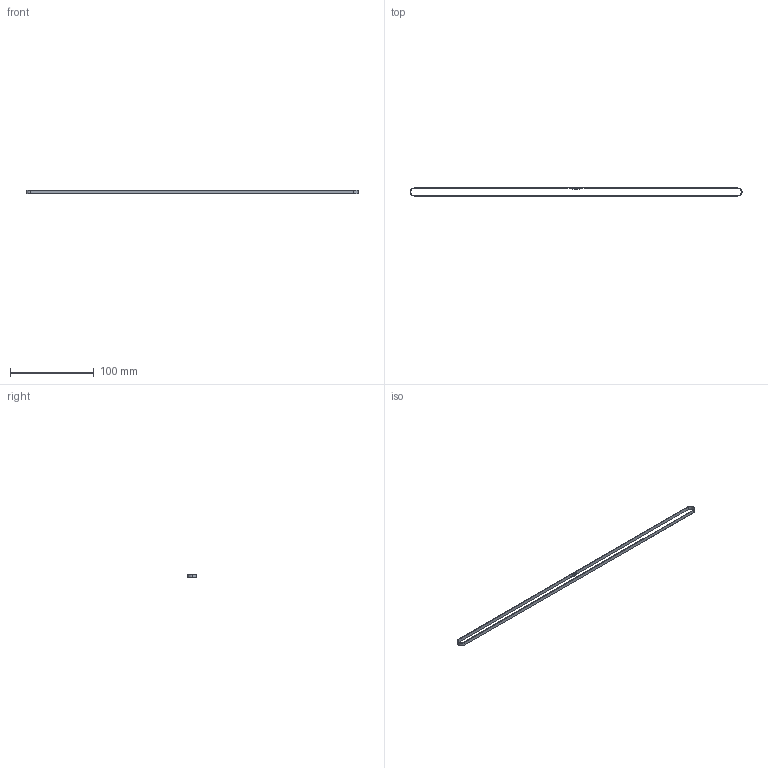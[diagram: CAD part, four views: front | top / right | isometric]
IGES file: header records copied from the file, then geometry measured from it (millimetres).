
Start section: Data from Parasolid IGES Translator 28.1.247, Copyright(c) 2006 Siemens PLM Software. All Rights Reserved.
Global section: file name: GBN8002GT-40_.info-1-14-14.igs; native system: By Siemens PLM Incorporated; preprocessor: XPlus GENERIC/IGES 28.1.247; author: Noname; organization: Noname; date: 20260515.045016; units: millimetre
Bounding box: 395.66 x 9.66 x 4 mm (x, y, z)
Surface area: 7435.4 mm2 (no closed solid volume)
Topology: 0 solids, 0 shells, 42 faces, 240 edges, 240 vertices
Faces by surface type: revolution 31, extrusion 11
